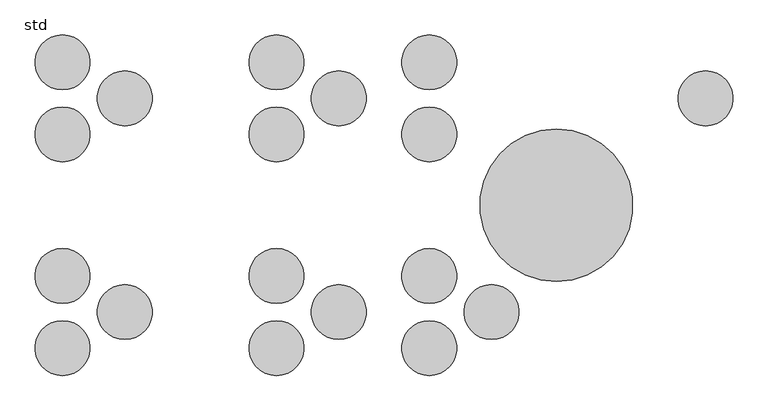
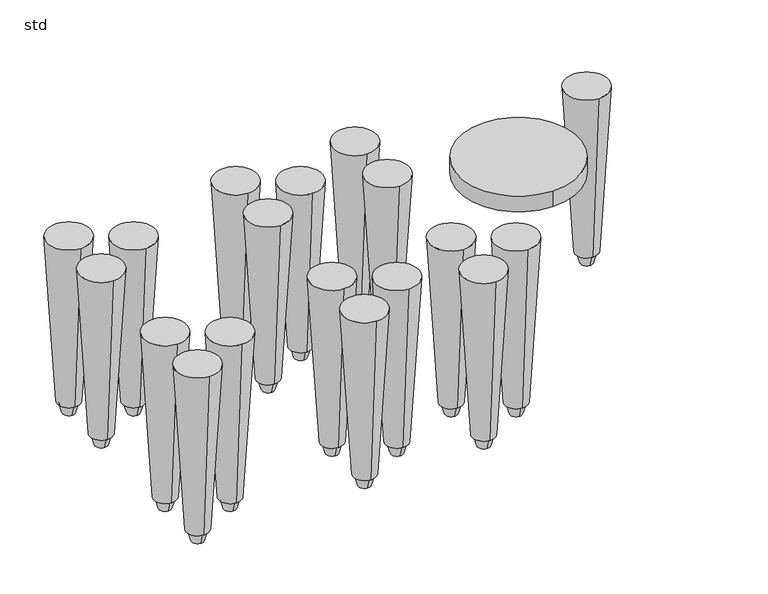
"""IFC4 building model written with IfcOpenShell, lengths in millimetres: unitary equipment geometry, Z_ME_UN_Aquacell_NG_Infiltration_Unit_Wavin_(nested) : std."""

from ifc_helpers import new_model, si_unit, point, frame, frame_2d, origin, place, context, project, spatial, polyline, circle_curve, trimmed, segment, composite_curve, outline, extrude, source, transform, mapped, element, save
from ifc_brep_helpers import plane_surface, revolved_surface, advanced_brep


def std_ece4d7e7(model_context):
    return source(origin(), model_context, "Body", "SolidModel", [
        extrude(outline(composite_curve([segment(trimmed(circle_curve(frame_2d((900.0, 300.0)), 125.0), [point((900.0, 425.0))], [point((900.0, 175.0))], False, "CARTESIAN"), True, "CONTINUOUS"), segment(trimmed(circle_curve(frame_2d((900.0, 300.0)), 125.0), [point((900.0, 175.0))], [point((900.0, 425.0))], False, "CARTESIAN"), True, "CONTINUOUS")], self_intersect=False)), frame((0.0, 0.0, 565.0), z_axis=(0.0, 0.0, 1.0), x_axis=(1.0, 0.0, 0.0)), (0.0, 0.0, 1.0), 35.0),
        advanced_brep(
        [(1144.0, 487.65, 175.0), (1144.0, 462.35, 175.0), (1144.0, 494.5, 200.0), (1144.0, 455.5, 200.0)],
        [
            (0, 1, circle_curve(frame((1144.0, 475.0, 175.0), z_axis=(0.0, 0.0, -1.0), x_axis=(0.0, 1.0, 0.0)), 12.65)),
            (1, 0, circle_curve(frame((1144.0, 475.0, 175.0), z_axis=(0.0, 0.0, -1.0), x_axis=(0.0, -1.0, 0.0)), 12.65)),
            (2, 3, circle_curve(frame((1144.0, 475.0, 200.0), z_axis=(0.0, 0.0, 1.0), x_axis=(0.0, -1.0, 0.0)), 19.5)),
            (3, 2, circle_curve(frame((1144.0, 475.0, 200.0), z_axis=(0.0, 0.0, 1.0), x_axis=(0.0, 1.0, 0.0)), 19.5)),
            (3, 1),
            (0, 2),
        ],
        [
            plane_surface(frame((1144.0, 475.0, 175.0), z_axis=(0.0, 0.0, -1.0), x_axis=(1.0, 0.0, 0.0))),
            plane_surface(frame((1144.0, 475.0, 200.0), z_axis=(0.0, 0.0, 1.0), x_axis=(1.0, 0.0, 0.0))),
            revolved_surface(polyline([(1144.0, 487.6499999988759, 175.0), (1144.0, 494.5, 200.0)]), (1144.0, 475.0, 128.8321168), (0.0, 0.0, 1.0)),
            revolved_surface(polyline([(1144.0, 462.3500000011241, 175.0), (1144.0, 455.5, 200.0)]), (1144.0, 475.0, 128.8321168), (0.0, 0.0, 1.0)),
        ],
        [
            (0, [[1, 2]]),
            (1, [[3, 4]]),
            (2, [[-4, 5, -1, 6]]),
            (3, [[-3, -6, -2, -5]]),
        ],
    ),
        advanced_brep(
        [(1144.0, 498.65, 200.0), (1144.0, 451.35, 200.0), (1144.0, 520.0, 565.0), (1144.0, 430.0, 565.0)],
        [
            (0, 1, circle_curve(frame((1144.0, 475.0, 200.0), z_axis=(0.0, 0.0, -1.0), x_axis=(0.0, 1.0, 0.0)), 23.65)),
            (1, 0, circle_curve(frame((1144.0, 475.0, 200.0), z_axis=(0.0, 0.0, -1.0), x_axis=(0.0, -1.0, 0.0)), 23.65)),
            (2, 3, circle_curve(frame((1144.0, 475.0, 565.0), z_axis=(0.0, 0.0, 1.0), x_axis=(0.0, -1.0, 0.0)), 45.0)),
            (3, 2, circle_curve(frame((1144.0, 475.0, 565.0), z_axis=(0.0, 0.0, 1.0), x_axis=(0.0, 1.0, 0.0)), 45.0)),
            (3, 1),
            (0, 2),
        ],
        [
            plane_surface(frame((1144.0, 475.0, 200.0), z_axis=(0.0, 0.0, -1.0), x_axis=(1.0, 0.0, 0.0))),
            plane_surface(frame((1144.0, 475.0, 565.0), z_axis=(0.0, 0.0, 1.0), x_axis=(1.0, 0.0, 0.0))),
            revolved_surface(polyline([(1144.0, 498.6500000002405, 199.99999999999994), (1144.0, 520.0, 565.0)]), (1144.0, 475.0, -204.3208431), (0.0, 0.0, 1.0)),
            revolved_surface(polyline([(1144.0, 451.3499999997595, 199.99999999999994), (1144.0, 430.0, 565.0)]), (1144.0, 475.0, -204.3208431), (0.0, 0.0, 1.0)),
        ],
        [
            (0, [[1, 2]]),
            (1, [[3, 4]]),
            (2, [[-4, 5, -1, 6]]),
            (3, [[-3, -6, -2, -5]]),
        ],
    ),
        advanced_brep(
        [(692.0, 78.65, 175.0), (692.0, 53.35, 175.0), (692.0, 85.5, 200.0), (692.0, 46.5, 200.0)],
        [
            (0, 1, circle_curve(frame((692.0, 66.0, 175.0), z_axis=(0.0, 0.0, -1.0), x_axis=(0.0, 1.0, 0.0)), 12.65)),
            (1, 0, circle_curve(frame((692.0, 66.0, 175.0), z_axis=(0.0, 0.0, -1.0), x_axis=(0.0, -1.0, 0.0)), 12.65)),
            (2, 3, circle_curve(frame((692.0, 66.0, 200.0), z_axis=(0.0, 0.0, 1.0), x_axis=(0.0, -1.0, 0.0)), 19.5)),
            (3, 2, circle_curve(frame((692.0, 66.0, 200.0), z_axis=(0.0, 0.0, 1.0), x_axis=(0.0, 1.0, 0.0)), 19.5)),
            (3, 1),
            (0, 2),
        ],
        [
            plane_surface(frame((692.0, 66.0, 175.0), z_axis=(0.0, 0.0, -1.0), x_axis=(1.0, 0.0, 0.0))),
            plane_surface(frame((692.0, 66.0, 200.0), z_axis=(0.0, 0.0, 1.0), x_axis=(1.0, 0.0, 0.0))),
            revolved_surface(polyline([(692.0, 78.6499999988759, 175.0), (692.0, 85.5, 200.0)]), (692.0, 66.0, 128.8321168), (0.0, 0.0, 1.0)),
            revolved_surface(polyline([(692.0, 53.3500000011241, 175.0), (692.0, 46.5, 200.0)]), (692.0, 66.0, 128.8321168), (0.0, 0.0, 1.0)),
        ],
        [
            (0, [[1, 2]]),
            (1, [[3, 4]]),
            (2, [[-4, 5, -1, 6]]),
            (3, [[-3, -6, -2, -5]]),
        ],
    ),
        advanced_brep(
        [(692.0, 196.65, 175.0), (692.0, 171.35, 175.0), (692.0, 203.5, 200.0), (692.0, 164.5, 200.0)],
        [
            (0, 1, circle_curve(frame((692.0, 184.0, 175.0), z_axis=(0.0, 0.0, -1.0), x_axis=(0.0, 1.0, 0.0)), 12.65)),
            (1, 0, circle_curve(frame((692.0, 184.0, 175.0), z_axis=(0.0, 0.0, -1.0), x_axis=(0.0, -1.0, 0.0)), 12.65)),
            (2, 3, circle_curve(frame((692.0, 184.0, 200.0), z_axis=(0.0, 0.0, 1.0), x_axis=(0.0, -1.0, 0.0)), 19.5)),
            (3, 2, circle_curve(frame((692.0, 184.0, 200.0), z_axis=(0.0, 0.0, 1.0), x_axis=(0.0, 1.0, 0.0)), 19.5)),
            (3, 1),
            (0, 2),
        ],
        [
            plane_surface(frame((692.0, 184.0, 175.0), z_axis=(0.0, 0.0, -1.0), x_axis=(1.0, 0.0, 0.0))),
            plane_surface(frame((692.0, 184.0, 200.0), z_axis=(0.0, 0.0, 1.0), x_axis=(1.0, 0.0, 0.0))),
            revolved_surface(polyline([(692.0, 196.6499999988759, 175.0), (692.0, 203.5, 200.0)]), (692.0, 184.0, 128.8321168), (0.0, 0.0, 1.0)),
            revolved_surface(polyline([(692.0, 171.3500000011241, 175.0), (692.0, 164.5, 200.0)]), (692.0, 184.0, 128.8321168), (0.0, 0.0, 1.0)),
        ],
        [
            (0, [[1, 2]]),
            (1, [[3, 4]]),
            (2, [[-4, 5, -1, 6]]),
            (3, [[-3, -6, -2, -5]]),
        ],
    ),
        advanced_brep(
        [(692.0, 89.65, 200.0), (692.0, 42.35, 200.0), (692.0, 111.0, 565.0), (692.0, 21.0, 565.0)],
        [
            (0, 1, circle_curve(frame((692.0, 66.0, 200.0), z_axis=(0.0, 0.0, -1.0), x_axis=(0.0, 1.0, 0.0)), 23.65)),
            (1, 0, circle_curve(frame((692.0, 66.0, 200.0), z_axis=(0.0, 0.0, -1.0), x_axis=(0.0, -1.0, 0.0)), 23.65)),
            (2, 3, circle_curve(frame((692.0, 66.0, 565.0), z_axis=(0.0, 0.0, 1.0), x_axis=(0.0, -1.0, 0.0)), 45.0)),
            (3, 2, circle_curve(frame((692.0, 66.0, 565.0), z_axis=(0.0, 0.0, 1.0), x_axis=(0.0, 1.0, 0.0)), 45.0)),
            (3, 1),
            (0, 2),
        ],
        [
            plane_surface(frame((692.0, 66.0, 200.0), z_axis=(0.0, 0.0, -1.0), x_axis=(1.0, 0.0, 0.0))),
            plane_surface(frame((692.0, 66.0, 565.0), z_axis=(0.0, 0.0, 1.0), x_axis=(1.0, 0.0, 0.0))),
            revolved_surface(polyline([(692.0, 89.65000000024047, 199.99999999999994), (692.0, 111.0, 565.0)]), (692.0, 66.0, -204.3208431), (0.0, 0.0, 1.0)),
            revolved_surface(polyline([(692.0, 42.34999999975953, 199.99999999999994), (692.0, 21.0, 565.0)]), (692.0, 66.0, -204.3208431), (0.0, 0.0, 1.0)),
        ],
        [
            (0, [[1, 2]]),
            (1, [[3, 4]]),
            (2, [[-4, 5, -1, 6]]),
            (3, [[-3, -6, -2, -5]]),
        ],
    ),
        advanced_brep(
        [(692.0, 207.65, 200.0), (692.0, 160.35, 200.0), (692.0, 229.0, 565.0), (692.0, 139.0, 565.0)],
        [
            (0, 1, circle_curve(frame((692.0, 184.0, 200.0), z_axis=(0.0, 0.0, -1.0), x_axis=(0.0, 1.0, 0.0)), 23.65)),
            (1, 0, circle_curve(frame((692.0, 184.0, 200.0), z_axis=(0.0, 0.0, -1.0), x_axis=(0.0, -1.0, 0.0)), 23.65)),
            (2, 3, circle_curve(frame((692.0, 184.0, 565.0), z_axis=(0.0, 0.0, 1.0), x_axis=(0.0, -1.0, 0.0)), 45.0)),
            (3, 2, circle_curve(frame((692.0, 184.0, 565.0), z_axis=(0.0, 0.0, 1.0), x_axis=(0.0, 1.0, 0.0)), 45.0)),
            (3, 1),
            (0, 2),
        ],
        [
            plane_surface(frame((692.0, 184.0, 200.0), z_axis=(0.0, 0.0, -1.0), x_axis=(1.0, 0.0, 0.0))),
            plane_surface(frame((692.0, 184.0, 565.0), z_axis=(0.0, 0.0, 1.0), x_axis=(1.0, 0.0, 0.0))),
            revolved_surface(polyline([(692.0, 207.65000000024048, 199.99999999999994), (692.0, 229.0, 565.0)]), (692.0, 184.0, -204.3208431), (0.0, 0.0, 1.0)),
            revolved_surface(polyline([(692.0, 160.34999999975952, 199.99999999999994), (692.0, 139.0, 565.0)]), (692.0, 184.0, -204.3208431), (0.0, 0.0, 1.0)),
        ],
        [
            (0, [[1, 2]]),
            (1, [[3, 4]]),
            (2, [[-4, 5, -1, 6]]),
            (3, [[-3, -6, -2, -5]]),
        ],
    ),
        advanced_brep(
        [(794.0, 137.65, 175.0), (794.0, 112.35, 175.0), (794.0, 144.5, 200.0), (794.0, 105.5, 200.0)],
        [
            (0, 1, circle_curve(frame((794.0, 125.0, 175.0), z_axis=(0.0, 0.0, -1.0), x_axis=(0.0, 1.0, 0.0)), 12.65)),
            (1, 0, circle_curve(frame((794.0, 125.0, 175.0), z_axis=(0.0, 0.0, -1.0), x_axis=(0.0, -1.0, 0.0)), 12.65)),
            (2, 3, circle_curve(frame((794.0, 125.0, 200.0), z_axis=(0.0, 0.0, 1.0), x_axis=(0.0, -1.0, 0.0)), 19.5)),
            (3, 2, circle_curve(frame((794.0, 125.0, 200.0), z_axis=(0.0, 0.0, 1.0), x_axis=(0.0, 1.0, 0.0)), 19.5)),
            (3, 1),
            (0, 2),
        ],
        [
            plane_surface(frame((794.0, 125.0, 175.0), z_axis=(0.0, 0.0, -1.0), x_axis=(1.0, 0.0, 0.0))),
            plane_surface(frame((794.0, 125.0, 200.0), z_axis=(0.0, 0.0, 1.0), x_axis=(1.0, 0.0, 0.0))),
            revolved_surface(polyline([(794.0, 137.6499999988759, 175.0), (794.0, 144.5, 200.0)]), (794.0, 125.0, 128.8321168), (0.0, 0.0, 1.0)),
            revolved_surface(polyline([(794.0, 112.3500000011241, 175.0), (794.0, 105.5, 200.0)]), (794.0, 125.0, 128.8321168), (0.0, 0.0, 1.0)),
        ],
        [
            (0, [[1, 2]]),
            (1, [[3, 4]]),
            (2, [[-4, 5, -1, 6]]),
            (3, [[-3, -6, -2, -5]]),
        ],
    ),
        advanced_brep(
        [(794.0, 148.65, 200.0), (794.0, 101.35, 200.0), (794.0, 170.0, 565.0), (794.0, 80.0, 565.0)],
        [
            (0, 1, circle_curve(frame((794.0, 125.0, 200.0), z_axis=(0.0, 0.0, -1.0), x_axis=(0.0, 1.0, 0.0)), 23.65)),
            (1, 0, circle_curve(frame((794.0, 125.0, 200.0), z_axis=(0.0, 0.0, -1.0), x_axis=(0.0, -1.0, 0.0)), 23.65)),
            (2, 3, circle_curve(frame((794.0, 125.0, 565.0), z_axis=(0.0, 0.0, 1.0), x_axis=(0.0, -1.0, 0.0)), 45.0)),
            (3, 2, circle_curve(frame((794.0, 125.0, 565.0), z_axis=(0.0, 0.0, 1.0), x_axis=(0.0, 1.0, 0.0)), 45.0)),
            (3, 1),
            (0, 2),
        ],
        [
            plane_surface(frame((794.0, 125.0, 200.0), z_axis=(0.0, 0.0, -1.0), x_axis=(1.0, 0.0, 0.0))),
            plane_surface(frame((794.0, 125.0, 565.0), z_axis=(0.0, 0.0, 1.0), x_axis=(1.0, 0.0, 0.0))),
            revolved_surface(polyline([(794.0, 148.65000000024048, 199.99999999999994), (794.0, 170.0, 565.0)]), (794.0, 125.0, -204.3208431), (0.0, 0.0, 1.0)),
            revolved_surface(polyline([(794.0, 101.34999999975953, 199.99999999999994), (794.0, 80.0, 565.0)]), (794.0, 125.0, -204.3208431), (0.0, 0.0, 1.0)),
        ],
        [
            (0, [[1, 2]]),
            (1, [[3, 4]]),
            (2, [[-4, 5, -1, 6]]),
            (3, [[-3, -6, -2, -5]]),
        ],
    ),
        advanced_brep(
        [(442.0, 78.65, 175.0), (442.0, 53.35, 175.0), (442.0, 85.5, 200.0), (442.0, 46.5, 200.0)],
        [
            (0, 1, circle_curve(frame((442.0, 66.0, 175.0), z_axis=(0.0, 0.0, -1.0), x_axis=(0.0, 1.0, 0.0)), 12.65)),
            (1, 0, circle_curve(frame((442.0, 66.0, 175.0), z_axis=(0.0, 0.0, -1.0), x_axis=(0.0, -1.0, 0.0)), 12.65)),
            (2, 3, circle_curve(frame((442.0, 66.0, 200.0), z_axis=(0.0, 0.0, 1.0), x_axis=(0.0, -1.0, 0.0)), 19.5)),
            (3, 2, circle_curve(frame((442.0, 66.0, 200.0), z_axis=(0.0, 0.0, 1.0), x_axis=(0.0, 1.0, 0.0)), 19.5)),
            (3, 1),
            (0, 2),
        ],
        [
            plane_surface(frame((442.0, 66.0, 175.0), z_axis=(0.0, 0.0, -1.0), x_axis=(1.0, 0.0, 0.0))),
            plane_surface(frame((442.0, 66.0, 200.0), z_axis=(0.0, 0.0, 1.0), x_axis=(1.0, 0.0, 0.0))),
            revolved_surface(polyline([(442.0, 78.6499999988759, 175.0), (442.0, 85.5, 200.0)]), (442.0, 66.0, 128.8321168), (0.0, 0.0, 1.0)),
            revolved_surface(polyline([(442.0, 53.3500000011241, 175.0), (442.0, 46.5, 200.0)]), (442.0, 66.0, 128.8321168), (0.0, 0.0, 1.0)),
        ],
        [
            (0, [[1, 2]]),
            (1, [[3, 4]]),
            (2, [[-4, 5, -1, 6]]),
            (3, [[-3, -6, -2, -5]]),
        ],
    ),
        advanced_brep(
        [(442.0, 196.65, 175.0), (442.0, 171.35, 175.0), (442.0, 203.5, 200.0), (442.0, 164.5, 200.0)],
        [
            (0, 1, circle_curve(frame((442.0, 184.0, 175.0), z_axis=(0.0, 0.0, -1.0), x_axis=(0.0, 1.0, 0.0)), 12.65)),
            (1, 0, circle_curve(frame((442.0, 184.0, 175.0), z_axis=(0.0, 0.0, -1.0), x_axis=(0.0, -1.0, 0.0)), 12.65)),
            (2, 3, circle_curve(frame((442.0, 184.0, 200.0), z_axis=(0.0, 0.0, 1.0), x_axis=(0.0, -1.0, 0.0)), 19.5)),
            (3, 2, circle_curve(frame((442.0, 184.0, 200.0), z_axis=(0.0, 0.0, 1.0), x_axis=(0.0, 1.0, 0.0)), 19.5)),
            (3, 1),
            (0, 2),
        ],
        [
            plane_surface(frame((442.0, 184.0, 175.0), z_axis=(0.0, 0.0, -1.0), x_axis=(1.0, 0.0, 0.0))),
            plane_surface(frame((442.0, 184.0, 200.0), z_axis=(0.0, 0.0, 1.0), x_axis=(1.0, 0.0, 0.0))),
            revolved_surface(polyline([(442.0, 196.6499999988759, 175.0), (442.0, 203.5, 200.0)]), (442.0, 184.0, 128.8321168), (0.0, 0.0, 1.0)),
            revolved_surface(polyline([(442.0, 171.3500000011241, 175.0), (442.0, 164.5, 200.0)]), (442.0, 184.0, 128.8321168), (0.0, 0.0, 1.0)),
        ],
        [
            (0, [[1, 2]]),
            (1, [[3, 4]]),
            (2, [[-4, 5, -1, 6]]),
            (3, [[-3, -6, -2, -5]]),
        ],
    ),
        advanced_brep(
        [(442.0, 89.65, 200.0), (442.0, 42.35, 200.0), (442.0, 111.0, 565.0), (442.0, 21.0, 565.0)],
        [
            (0, 1, circle_curve(frame((442.0, 66.0, 200.0), z_axis=(0.0, 0.0, -1.0), x_axis=(0.0, 1.0, 0.0)), 23.65)),
            (1, 0, circle_curve(frame((442.0, 66.0, 200.0), z_axis=(0.0, 0.0, -1.0), x_axis=(0.0, -1.0, 0.0)), 23.65)),
            (2, 3, circle_curve(frame((442.0, 66.0, 565.0), z_axis=(0.0, 0.0, 1.0), x_axis=(0.0, -1.0, 0.0)), 45.0)),
            (3, 2, circle_curve(frame((442.0, 66.0, 565.0), z_axis=(0.0, 0.0, 1.0), x_axis=(0.0, 1.0, 0.0)), 45.0)),
            (3, 1),
            (0, 2),
        ],
        [
            plane_surface(frame((442.0, 66.0, 200.0), z_axis=(0.0, 0.0, -1.0), x_axis=(1.0, 0.0, 0.0))),
            plane_surface(frame((442.0, 66.0, 565.0), z_axis=(0.0, 0.0, 1.0), x_axis=(1.0, 0.0, 0.0))),
            revolved_surface(polyline([(442.0, 89.65000000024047, 199.99999999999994), (442.0, 111.0, 565.0)]), (442.0, 66.0, -204.3208431), (0.0, 0.0, 1.0)),
            revolved_surface(polyline([(442.0, 42.34999999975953, 199.99999999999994), (442.0, 21.0, 565.0)]), (442.0, 66.0, -204.3208431), (0.0, 0.0, 1.0)),
        ],
        [
            (0, [[1, 2]]),
            (1, [[3, 4]]),
            (2, [[-4, 5, -1, 6]]),
            (3, [[-3, -6, -2, -5]]),
        ],
    ),
        advanced_brep(
        [(442.0, 207.65, 200.0), (442.0, 160.35, 200.0), (442.0, 229.0, 565.0), (442.0, 139.0, 565.0)],
        [
            (0, 1, circle_curve(frame((442.0, 184.0, 200.0), z_axis=(0.0, 0.0, -1.0), x_axis=(0.0, 1.0, 0.0)), 23.65)),
            (1, 0, circle_curve(frame((442.0, 184.0, 200.0), z_axis=(0.0, 0.0, -1.0), x_axis=(0.0, -1.0, 0.0)), 23.65)),
            (2, 3, circle_curve(frame((442.0, 184.0, 565.0), z_axis=(0.0, 0.0, 1.0), x_axis=(0.0, -1.0, 0.0)), 45.0)),
            (3, 2, circle_curve(frame((442.0, 184.0, 565.0), z_axis=(0.0, 0.0, 1.0), x_axis=(0.0, 1.0, 0.0)), 45.0)),
            (3, 1),
            (0, 2),
        ],
        [
            plane_surface(frame((442.0, 184.0, 200.0), z_axis=(0.0, 0.0, -1.0), x_axis=(1.0, 0.0, 0.0))),
            plane_surface(frame((442.0, 184.0, 565.0), z_axis=(0.0, 0.0, 1.0), x_axis=(1.0, 0.0, 0.0))),
            revolved_surface(polyline([(442.0, 207.65000000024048, 199.99999999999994), (442.0, 229.0, 565.0)]), (442.0, 184.0, -204.3208431), (0.0, 0.0, 1.0)),
            revolved_surface(polyline([(442.0, 160.34999999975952, 199.99999999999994), (442.0, 139.0, 565.0)]), (442.0, 184.0, -204.3208431), (0.0, 0.0, 1.0)),
        ],
        [
            (0, [[1, 2]]),
            (1, [[3, 4]]),
            (2, [[-4, 5, -1, 6]]),
            (3, [[-3, -6, -2, -5]]),
        ],
    ),
        advanced_brep(
        [(544.0, 137.65, 175.0), (544.0, 112.35, 175.0), (544.0, 144.5, 200.0), (544.0, 105.5, 200.0)],
        [
            (0, 1, circle_curve(frame((544.0, 125.0, 175.0), z_axis=(0.0, 0.0, -1.0), x_axis=(0.0, 1.0, 0.0)), 12.65)),
            (1, 0, circle_curve(frame((544.0, 125.0, 175.0), z_axis=(0.0, 0.0, -1.0), x_axis=(0.0, -1.0, 0.0)), 12.65)),
            (2, 3, circle_curve(frame((544.0, 125.0, 200.0), z_axis=(0.0, 0.0, 1.0), x_axis=(0.0, -1.0, 0.0)), 19.5)),
            (3, 2, circle_curve(frame((544.0, 125.0, 200.0), z_axis=(0.0, 0.0, 1.0), x_axis=(0.0, 1.0, 0.0)), 19.5)),
            (3, 1),
            (0, 2),
        ],
        [
            plane_surface(frame((544.0, 125.0, 175.0), z_axis=(0.0, 0.0, -1.0), x_axis=(1.0, 0.0, 0.0))),
            plane_surface(frame((544.0, 125.0, 200.0), z_axis=(0.0, 0.0, 1.0), x_axis=(1.0, 0.0, 0.0))),
            revolved_surface(polyline([(544.0, 137.6499999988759, 175.0), (544.0, 144.5, 200.0)]), (544.0, 125.0, 128.8321168), (0.0, 0.0, 1.0)),
            revolved_surface(polyline([(544.0, 112.3500000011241, 175.0), (544.0, 105.5, 200.0)]), (544.0, 125.0, 128.8321168), (0.0, 0.0, 1.0)),
        ],
        [
            (0, [[1, 2]]),
            (1, [[3, 4]]),
            (2, [[-4, 5, -1, 6]]),
            (3, [[-3, -6, -2, -5]]),
        ],
    ),
        advanced_brep(
        [(544.0, 148.65, 200.0), (544.0, 101.35, 200.0), (544.0, 170.0, 565.0), (544.0, 80.0, 565.0)],
        [
            (0, 1, circle_curve(frame((544.0, 125.0, 200.0), z_axis=(0.0, 0.0, -1.0), x_axis=(0.0, 1.0, 0.0)), 23.65)),
            (1, 0, circle_curve(frame((544.0, 125.0, 200.0), z_axis=(0.0, 0.0, -1.0), x_axis=(0.0, -1.0, 0.0)), 23.65)),
            (2, 3, circle_curve(frame((544.0, 125.0, 565.0), z_axis=(0.0, 0.0, 1.0), x_axis=(0.0, -1.0, 0.0)), 45.0)),
            (3, 2, circle_curve(frame((544.0, 125.0, 565.0), z_axis=(0.0, 0.0, 1.0), x_axis=(0.0, 1.0, 0.0)), 45.0)),
            (3, 1),
            (0, 2),
        ],
        [
            plane_surface(frame((544.0, 125.0, 200.0), z_axis=(0.0, 0.0, -1.0), x_axis=(1.0, 0.0, 0.0))),
            plane_surface(frame((544.0, 125.0, 565.0), z_axis=(0.0, 0.0, 1.0), x_axis=(1.0, 0.0, 0.0))),
            revolved_surface(polyline([(544.0, 148.65000000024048, 199.99999999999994), (544.0, 170.0, 565.0)]), (544.0, 125.0, -204.3208431), (0.0, 0.0, 1.0)),
            revolved_surface(polyline([(544.0, 101.34999999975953, 199.99999999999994), (544.0, 80.0, 565.0)]), (544.0, 125.0, -204.3208431), (0.0, 0.0, 1.0)),
        ],
        [
            (0, [[1, 2]]),
            (1, [[3, 4]]),
            (2, [[-4, 5, -1, 6]]),
            (3, [[-3, -6, -2, -5]]),
        ],
    ),
        advanced_brep(
        [(92.0, 78.65, 175.0), (92.0, 53.35, 175.0), (92.0, 85.5, 200.0), (92.0, 46.5, 200.0)],
        [
            (0, 1, circle_curve(frame((92.0, 66.0, 175.0), z_axis=(0.0, 0.0, -1.0), x_axis=(0.0, 1.0, 0.0)), 12.65)),
            (1, 0, circle_curve(frame((92.0, 66.0, 175.0), z_axis=(0.0, 0.0, -1.0), x_axis=(0.0, -1.0, 0.0)), 12.65)),
            (2, 3, circle_curve(frame((92.0, 66.0, 200.0), z_axis=(0.0, 0.0, 1.0), x_axis=(0.0, -1.0, 0.0)), 19.5)),
            (3, 2, circle_curve(frame((92.0, 66.0, 200.0), z_axis=(0.0, 0.0, 1.0), x_axis=(0.0, 1.0, 0.0)), 19.5)),
            (3, 1),
            (0, 2),
        ],
        [
            plane_surface(frame((92.0, 66.0, 175.0), z_axis=(0.0, 0.0, -1.0), x_axis=(1.0, 0.0, 0.0))),
            plane_surface(frame((92.0, 66.0, 200.0), z_axis=(0.0, 0.0, 1.0), x_axis=(1.0, 0.0, 0.0))),
            revolved_surface(polyline([(92.0, 78.6499999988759, 175.0), (92.0, 85.5, 200.0)]), (92.0, 66.0, 128.8321168), (0.0, 0.0, 1.0)),
            revolved_surface(polyline([(92.0, 53.3500000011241, 175.0), (92.0, 46.5, 200.0)]), (92.0, 66.0, 128.8321168), (0.0, 0.0, 1.0)),
        ],
        [
            (0, [[1, 2]]),
            (1, [[3, 4]]),
            (2, [[-4, 5, -1, 6]]),
            (3, [[-3, -6, -2, -5]]),
        ],
    ),
        advanced_brep(
        [(92.0, 196.65, 175.0), (92.0, 171.35, 175.0), (92.0, 203.5, 200.0), (92.0, 164.5, 200.0)],
        [
            (0, 1, circle_curve(frame((92.0, 184.0, 175.0), z_axis=(0.0, 0.0, -1.0), x_axis=(0.0, 1.0, 0.0)), 12.65)),
            (1, 0, circle_curve(frame((92.0, 184.0, 175.0), z_axis=(0.0, 0.0, -1.0), x_axis=(0.0, -1.0, 0.0)), 12.65)),
            (2, 3, circle_curve(frame((92.0, 184.0, 200.0), z_axis=(0.0, 0.0, 1.0), x_axis=(0.0, -1.0, 0.0)), 19.5)),
            (3, 2, circle_curve(frame((92.0, 184.0, 200.0), z_axis=(0.0, 0.0, 1.0), x_axis=(0.0, 1.0, 0.0)), 19.5)),
            (3, 1),
            (0, 2),
        ],
        [
            plane_surface(frame((92.0, 184.0, 175.0), z_axis=(0.0, 0.0, -1.0), x_axis=(1.0, 0.0, 0.0))),
            plane_surface(frame((92.0, 184.0, 200.0), z_axis=(0.0, 0.0, 1.0), x_axis=(1.0, 0.0, 0.0))),
            revolved_surface(polyline([(92.0, 196.6499999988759, 175.0), (92.0, 203.5, 200.0)]), (92.0, 184.0, 128.8321168), (0.0, 0.0, 1.0)),
            revolved_surface(polyline([(92.0, 171.3500000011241, 175.0), (92.0, 164.5, 200.0)]), (92.0, 184.0, 128.8321168), (0.0, 0.0, 1.0)),
        ],
        [
            (0, [[1, 2]]),
            (1, [[3, 4]]),
            (2, [[-4, 5, -1, 6]]),
            (3, [[-3, -6, -2, -5]]),
        ],
    ),
        advanced_brep(
        [(92.0, 89.65, 200.0), (92.0, 42.35, 200.0), (92.0, 111.0, 565.0), (92.0, 21.0, 565.0)],
        [
            (0, 1, circle_curve(frame((92.0, 66.0, 200.0), z_axis=(0.0, 0.0, -1.0), x_axis=(0.0, 1.0, 0.0)), 23.65)),
            (1, 0, circle_curve(frame((92.0, 66.0, 200.0), z_axis=(0.0, 0.0, -1.0), x_axis=(0.0, -1.0, 0.0)), 23.65)),
            (2, 3, circle_curve(frame((92.0, 66.0, 565.0), z_axis=(0.0, 0.0, 1.0), x_axis=(0.0, -1.0, 0.0)), 45.0)),
            (3, 2, circle_curve(frame((92.0, 66.0, 565.0), z_axis=(0.0, 0.0, 1.0), x_axis=(0.0, 1.0, 0.0)), 45.0)),
            (3, 1),
            (0, 2),
        ],
        [
            plane_surface(frame((92.0, 66.0, 200.0), z_axis=(0.0, 0.0, -1.0), x_axis=(1.0, 0.0, 0.0))),
            plane_surface(frame((92.0, 66.0, 565.0), z_axis=(0.0, 0.0, 1.0), x_axis=(1.0, 0.0, 0.0))),
            revolved_surface(polyline([(92.0, 89.65000000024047, 199.99999999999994), (92.0, 111.0, 565.0)]), (92.0, 66.0, -204.3208431), (0.0, 0.0, 1.0)),
            revolved_surface(polyline([(92.0, 42.34999999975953, 199.99999999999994), (92.0, 21.0, 565.0)]), (92.0, 66.0, -204.3208431), (0.0, 0.0, 1.0)),
        ],
        [
            (0, [[1, 2]]),
            (1, [[3, 4]]),
            (2, [[-4, 5, -1, 6]]),
            (3, [[-3, -6, -2, -5]]),
        ],
    ),
        advanced_brep(
        [(92.0, 207.65, 200.0), (92.0, 160.35, 200.0), (92.0, 229.0, 565.0), (92.0, 139.0, 565.0)],
        [
            (0, 1, circle_curve(frame((92.0, 184.0, 200.0), z_axis=(0.0, 0.0, -1.0), x_axis=(0.0, 1.0, 0.0)), 23.65)),
            (1, 0, circle_curve(frame((92.0, 184.0, 200.0), z_axis=(0.0, 0.0, -1.0), x_axis=(0.0, -1.0, 0.0)), 23.65)),
            (2, 3, circle_curve(frame((92.0, 184.0, 565.0), z_axis=(0.0, 0.0, 1.0), x_axis=(0.0, -1.0, 0.0)), 45.0)),
            (3, 2, circle_curve(frame((92.0, 184.0, 565.0), z_axis=(0.0, 0.0, 1.0), x_axis=(0.0, 1.0, 0.0)), 45.0)),
            (3, 1),
            (0, 2),
        ],
        [
            plane_surface(frame((92.0, 184.0, 200.0), z_axis=(0.0, 0.0, -1.0), x_axis=(1.0, 0.0, 0.0))),
            plane_surface(frame((92.0, 184.0, 565.0), z_axis=(0.0, 0.0, 1.0), x_axis=(1.0, 0.0, 0.0))),
            revolved_surface(polyline([(92.0, 207.65000000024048, 199.99999999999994), (92.0, 229.0, 565.0)]), (92.0, 184.0, -204.3208431), (0.0, 0.0, 1.0)),
            revolved_surface(polyline([(92.0, 160.34999999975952, 199.99999999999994), (92.0, 139.0, 565.0)]), (92.0, 184.0, -204.3208431), (0.0, 0.0, 1.0)),
        ],
        [
            (0, [[1, 2]]),
            (1, [[3, 4]]),
            (2, [[-4, 5, -1, 6]]),
            (3, [[-3, -6, -2, -5]]),
        ],
    ),
        advanced_brep(
        [(194.0, 137.65, 175.0), (194.0, 112.35, 175.0), (194.0, 144.5, 200.0), (194.0, 105.5, 200.0)],
        [
            (0, 1, circle_curve(frame((194.0, 125.0, 175.0), z_axis=(0.0, 0.0, -1.0), x_axis=(0.0, 1.0, 0.0)), 12.65)),
            (1, 0, circle_curve(frame((194.0, 125.0, 175.0), z_axis=(0.0, 0.0, -1.0), x_axis=(0.0, -1.0, 0.0)), 12.65)),
            (2, 3, circle_curve(frame((194.0, 125.0, 200.0), z_axis=(0.0, 0.0, 1.0), x_axis=(0.0, -1.0, 0.0)), 19.5)),
            (3, 2, circle_curve(frame((194.0, 125.0, 200.0), z_axis=(0.0, 0.0, 1.0), x_axis=(0.0, 1.0, 0.0)), 19.5)),
            (3, 1),
            (0, 2),
        ],
        [
            plane_surface(frame((194.0, 125.0, 175.0), z_axis=(0.0, 0.0, -1.0), x_axis=(1.0, 0.0, 0.0))),
            plane_surface(frame((194.0, 125.0, 200.0), z_axis=(0.0, 0.0, 1.0), x_axis=(1.0, 0.0, 0.0))),
            revolved_surface(polyline([(194.0, 137.6499999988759, 175.0), (194.0, 144.5, 200.0)]), (194.0, 125.0, 128.8321168), (0.0, 0.0, 1.0)),
            revolved_surface(polyline([(194.0, 112.3500000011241, 175.0), (194.0, 105.5, 200.0)]), (194.0, 125.0, 128.8321168), (0.0, 0.0, 1.0)),
        ],
        [
            (0, [[1, 2]]),
            (1, [[3, 4]]),
            (2, [[-4, 5, -1, 6]]),
            (3, [[-3, -6, -2, -5]]),
        ],
    ),
        advanced_brep(
        [(194.0, 148.65, 200.0), (194.0, 101.35, 200.0), (194.0, 170.0, 565.0), (194.0, 80.0, 565.0)],
        [
            (0, 1, circle_curve(frame((194.0, 125.0, 200.0), z_axis=(0.0, 0.0, -1.0), x_axis=(0.0, 1.0, 0.0)), 23.65)),
            (1, 0, circle_curve(frame((194.0, 125.0, 200.0), z_axis=(0.0, 0.0, -1.0), x_axis=(0.0, -1.0, 0.0)), 23.65)),
            (2, 3, circle_curve(frame((194.0, 125.0, 565.0), z_axis=(0.0, 0.0, 1.0), x_axis=(0.0, -1.0, 0.0)), 45.0)),
            (3, 2, circle_curve(frame((194.0, 125.0, 565.0), z_axis=(0.0, 0.0, 1.0), x_axis=(0.0, 1.0, 0.0)), 45.0)),
            (3, 1),
            (0, 2),
        ],
        [
            plane_surface(frame((194.0, 125.0, 200.0), z_axis=(0.0, 0.0, -1.0), x_axis=(1.0, 0.0, 0.0))),
            plane_surface(frame((194.0, 125.0, 565.0), z_axis=(0.0, 0.0, 1.0), x_axis=(1.0, 0.0, 0.0))),
            revolved_surface(polyline([(194.0, 148.65000000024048, 199.99999999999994), (194.0, 170.0, 565.0)]), (194.0, 125.0, -204.3208431), (0.0, 0.0, 1.0)),
            revolved_surface(polyline([(194.0, 101.34999999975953, 199.99999999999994), (194.0, 80.0, 565.0)]), (194.0, 125.0, -204.3208431), (0.0, 0.0, 1.0)),
        ],
        [
            (0, [[1, 2]]),
            (1, [[3, 4]]),
            (2, [[-4, 5, -1, 6]]),
            (3, [[-3, -6, -2, -5]]),
        ],
    ),
        advanced_brep(
        [(92.0, 428.65, 175.0), (92.0, 403.35, 175.0), (92.0, 435.5, 200.0), (92.0, 396.5, 200.0)],
        [
            (0, 1, circle_curve(frame((92.0, 416.0, 175.0), z_axis=(0.0, 0.0, -1.0), x_axis=(0.0, 1.0, 0.0)), 12.65)),
            (1, 0, circle_curve(frame((92.0, 416.0, 175.0), z_axis=(0.0, 0.0, -1.0), x_axis=(0.0, -1.0, 0.0)), 12.65)),
            (2, 3, circle_curve(frame((92.0, 416.0, 200.0), z_axis=(0.0, 0.0, 1.0), x_axis=(0.0, -1.0, 0.0)), 19.5)),
            (3, 2, circle_curve(frame((92.0, 416.0, 200.0), z_axis=(0.0, 0.0, 1.0), x_axis=(0.0, 1.0, 0.0)), 19.5)),
            (3, 1),
            (0, 2),
        ],
        [
            plane_surface(frame((92.0, 416.0, 175.0), z_axis=(0.0, 0.0, -1.0), x_axis=(1.0, 0.0, 0.0))),
            plane_surface(frame((92.0, 416.0, 200.0), z_axis=(0.0, 0.0, 1.0), x_axis=(1.0, 0.0, 0.0))),
            revolved_surface(polyline([(92.0, 428.6499999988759, 175.0), (92.0, 435.5, 200.0)]), (92.0, 416.0, 128.8321168), (0.0, 0.0, 1.0)),
            revolved_surface(polyline([(92.0, 403.3500000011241, 175.0), (92.0, 396.5, 200.0)]), (92.0, 416.0, 128.8321168), (0.0, 0.0, 1.0)),
        ],
        [
            (0, [[1, 2]]),
            (1, [[3, 4]]),
            (2, [[-4, 5, -1, 6]]),
            (3, [[-3, -6, -2, -5]]),
        ],
    ),
        advanced_brep(
        [(92.0, 546.65, 175.0), (92.0, 521.35, 175.0), (92.0, 553.5, 200.0), (92.0, 514.5, 200.0)],
        [
            (0, 1, circle_curve(frame((92.0, 534.0, 175.0), z_axis=(0.0, 0.0, -1.0), x_axis=(0.0, 1.0, 0.0)), 12.65)),
            (1, 0, circle_curve(frame((92.0, 534.0, 175.0), z_axis=(0.0, 0.0, -1.0), x_axis=(0.0, -1.0, 0.0)), 12.65)),
            (2, 3, circle_curve(frame((92.0, 534.0, 200.0), z_axis=(0.0, 0.0, 1.0), x_axis=(0.0, -1.0, 0.0)), 19.5)),
            (3, 2, circle_curve(frame((92.0, 534.0, 200.0), z_axis=(0.0, 0.0, 1.0), x_axis=(0.0, 1.0, 0.0)), 19.5)),
            (3, 1),
            (0, 2),
        ],
        [
            plane_surface(frame((92.0, 534.0, 175.0), z_axis=(0.0, 0.0, -1.0), x_axis=(1.0, 0.0, 0.0))),
            plane_surface(frame((92.0, 534.0, 200.0), z_axis=(0.0, 0.0, 1.0), x_axis=(1.0, 0.0, 0.0))),
            revolved_surface(polyline([(92.0, 546.6499999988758, 175.0), (92.0, 553.5, 200.0)]), (92.0, 534.0, 128.8321168), (0.0, 0.0, 1.0)),
            revolved_surface(polyline([(92.0, 521.3500000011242, 175.0), (92.0, 514.5, 200.0)]), (92.0, 534.0, 128.8321168), (0.0, 0.0, 1.0)),
        ],
        [
            (0, [[1, 2]]),
            (1, [[3, 4]]),
            (2, [[-4, 5, -1, 6]]),
            (3, [[-3, -6, -2, -5]]),
        ],
    ),
        advanced_brep(
        [(92.0, 439.65, 200.0), (92.0, 392.35, 200.0), (92.0, 461.0, 565.0), (92.0, 371.0, 565.0)],
        [
            (0, 1, circle_curve(frame((92.0, 416.0, 200.0), z_axis=(0.0, 0.0, -1.0), x_axis=(0.0, 1.0, 0.0)), 23.65)),
            (1, 0, circle_curve(frame((92.0, 416.0, 200.0), z_axis=(0.0, 0.0, -1.0), x_axis=(0.0, -1.0, 0.0)), 23.65)),
            (2, 3, circle_curve(frame((92.0, 416.0, 565.0), z_axis=(0.0, 0.0, 1.0), x_axis=(0.0, -1.0, 0.0)), 45.0)),
            (3, 2, circle_curve(frame((92.0, 416.0, 565.0), z_axis=(0.0, 0.0, 1.0), x_axis=(0.0, 1.0, 0.0)), 45.0)),
            (3, 1),
            (0, 2),
        ],
        [
            plane_surface(frame((92.0, 416.0, 200.0), z_axis=(0.0, 0.0, -1.0), x_axis=(1.0, 0.0, 0.0))),
            plane_surface(frame((92.0, 416.0, 565.0), z_axis=(0.0, 0.0, 1.0), x_axis=(1.0, 0.0, 0.0))),
            revolved_surface(polyline([(92.0, 439.6500000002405, 199.99999999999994), (92.0, 461.0, 565.0)]), (92.0, 416.0, -204.3208431), (0.0, 0.0, 1.0)),
            revolved_surface(polyline([(92.0, 392.3499999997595, 199.99999999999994), (92.0, 371.0, 565.0)]), (92.0, 416.0, -204.3208431), (0.0, 0.0, 1.0)),
        ],
        [
            (0, [[1, 2]]),
            (1, [[3, 4]]),
            (2, [[-4, 5, -1, 6]]),
            (3, [[-3, -6, -2, -5]]),
        ],
    ),
        advanced_brep(
        [(92.0, 557.65, 200.0), (92.0, 510.35, 200.0), (92.0, 579.0, 565.0), (92.0, 489.0, 565.0)],
        [
            (0, 1, circle_curve(frame((92.0, 534.0, 200.0), z_axis=(0.0, 0.0, -1.0), x_axis=(0.0, 1.0, 0.0)), 23.65)),
            (1, 0, circle_curve(frame((92.0, 534.0, 200.0), z_axis=(0.0, 0.0, -1.0), x_axis=(0.0, -1.0, 0.0)), 23.65)),
            (2, 3, circle_curve(frame((92.0, 534.0, 565.0), z_axis=(0.0, 0.0, 1.0), x_axis=(0.0, -1.0, 0.0)), 45.0)),
            (3, 2, circle_curve(frame((92.0, 534.0, 565.0), z_axis=(0.0, 0.0, 1.0), x_axis=(0.0, 1.0, 0.0)), 45.0)),
            (3, 1),
            (0, 2),
        ],
        [
            plane_surface(frame((92.0, 534.0, 200.0), z_axis=(0.0, 0.0, -1.0), x_axis=(1.0, 0.0, 0.0))),
            plane_surface(frame((92.0, 534.0, 565.0), z_axis=(0.0, 0.0, 1.0), x_axis=(1.0, 0.0, 0.0))),
            revolved_surface(polyline([(92.0, 557.6500000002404, 199.99999999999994), (92.0, 579.0, 565.0)]), (92.0, 534.0, -204.3208431), (0.0, 0.0, 1.0)),
            revolved_surface(polyline([(92.0, 510.3499999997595, 199.99999999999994), (92.0, 489.0, 565.0)]), (92.0, 534.0, -204.3208431), (0.0, 0.0, 1.0)),
        ],
        [
            (0, [[1, 2]]),
            (1, [[3, 4]]),
            (2, [[-4, 5, -1, 6]]),
            (3, [[-3, -6, -2, -5]]),
        ],
    ),
        advanced_brep(
        [(194.0, 487.65, 175.0), (194.0, 462.35, 175.0), (194.0, 494.5, 200.0), (194.0, 455.5, 200.0)],
        [
            (0, 1, circle_curve(frame((194.0, 475.0, 175.0), z_axis=(0.0, 0.0, -1.0), x_axis=(0.0, 1.0, 0.0)), 12.65)),
            (1, 0, circle_curve(frame((194.0, 475.0, 175.0), z_axis=(0.0, 0.0, -1.0), x_axis=(0.0, -1.0, 0.0)), 12.65)),
            (2, 3, circle_curve(frame((194.0, 475.0, 200.0), z_axis=(0.0, 0.0, 1.0), x_axis=(0.0, -1.0, 0.0)), 19.5)),
            (3, 2, circle_curve(frame((194.0, 475.0, 200.0), z_axis=(0.0, 0.0, 1.0), x_axis=(0.0, 1.0, 0.0)), 19.5)),
            (3, 1),
            (0, 2),
        ],
        [
            plane_surface(frame((194.0, 475.0, 175.0), z_axis=(0.0, 0.0, -1.0), x_axis=(1.0, 0.0, 0.0))),
            plane_surface(frame((194.0, 475.0, 200.0), z_axis=(0.0, 0.0, 1.0), x_axis=(1.0, 0.0, 0.0))),
            revolved_surface(polyline([(194.0, 487.6499999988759, 175.0), (194.0, 494.5, 200.0)]), (194.0, 475.0, 128.8321168), (0.0, 0.0, 1.0)),
            revolved_surface(polyline([(194.0, 462.3500000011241, 175.0), (194.0, 455.5, 200.0)]), (194.0, 475.0, 128.8321168), (0.0, 0.0, 1.0)),
        ],
        [
            (0, [[1, 2]]),
            (1, [[3, 4]]),
            (2, [[-4, 5, -1, 6]]),
            (3, [[-3, -6, -2, -5]]),
        ],
    ),
        advanced_brep(
        [(194.0, 498.65, 200.0), (194.0, 451.35, 200.0), (194.0, 520.0, 565.0), (194.0, 430.0, 565.0)],
        [
            (0, 1, circle_curve(frame((194.0, 475.0, 200.0), z_axis=(0.0, 0.0, -1.0), x_axis=(0.0, 1.0, 0.0)), 23.65)),
            (1, 0, circle_curve(frame((194.0, 475.0, 200.0), z_axis=(0.0, 0.0, -1.0), x_axis=(0.0, -1.0, 0.0)), 23.65)),
            (2, 3, circle_curve(frame((194.0, 475.0, 565.0), z_axis=(0.0, 0.0, 1.0), x_axis=(0.0, -1.0, 0.0)), 45.0)),
            (3, 2, circle_curve(frame((194.0, 475.0, 565.0), z_axis=(0.0, 0.0, 1.0), x_axis=(0.0, 1.0, 0.0)), 45.0)),
            (3, 1),
            (0, 2),
        ],
        [
            plane_surface(frame((194.0, 475.0, 200.0), z_axis=(0.0, 0.0, -1.0), x_axis=(1.0, 0.0, 0.0))),
            plane_surface(frame((194.0, 475.0, 565.0), z_axis=(0.0, 0.0, 1.0), x_axis=(1.0, 0.0, 0.0))),
            revolved_surface(polyline([(194.0, 498.6500000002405, 199.99999999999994), (194.0, 520.0, 565.0)]), (194.0, 475.0, -204.3208431), (0.0, 0.0, 1.0)),
            revolved_surface(polyline([(194.0, 451.3499999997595, 199.99999999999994), (194.0, 430.0, 565.0)]), (194.0, 475.0, -204.3208431), (0.0, 0.0, 1.0)),
        ],
        [
            (0, [[1, 2]]),
            (1, [[3, 4]]),
            (2, [[-4, 5, -1, 6]]),
            (3, [[-3, -6, -2, -5]]),
        ],
    ),
        advanced_brep(
        [(442.0, 428.65, 175.0), (442.0, 403.35, 175.0), (442.0, 435.5, 200.0), (442.0, 396.5, 200.0)],
        [
            (0, 1, circle_curve(frame((442.0, 416.0, 175.0), z_axis=(0.0, 0.0, -1.0), x_axis=(0.0, 1.0, 0.0)), 12.65)),
            (1, 0, circle_curve(frame((442.0, 416.0, 175.0), z_axis=(0.0, 0.0, -1.0), x_axis=(0.0, -1.0, 0.0)), 12.65)),
            (2, 3, circle_curve(frame((442.0, 416.0, 200.0), z_axis=(0.0, 0.0, 1.0), x_axis=(0.0, -1.0, 0.0)), 19.5)),
            (3, 2, circle_curve(frame((442.0, 416.0, 200.0), z_axis=(0.0, 0.0, 1.0), x_axis=(0.0, 1.0, 0.0)), 19.5)),
            (3, 1),
            (0, 2),
        ],
        [
            plane_surface(frame((442.0, 416.0, 175.0), z_axis=(0.0, 0.0, -1.0), x_axis=(1.0, 0.0, 0.0))),
            plane_surface(frame((442.0, 416.0, 200.0), z_axis=(0.0, 0.0, 1.0), x_axis=(1.0, 0.0, 0.0))),
            revolved_surface(polyline([(442.0, 428.6499999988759, 175.0), (442.0, 435.5, 200.0)]), (442.0, 416.0, 128.8321168), (0.0, 0.0, 1.0)),
            revolved_surface(polyline([(442.0, 403.3500000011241, 175.0), (442.0, 396.5, 200.0)]), (442.0, 416.0, 128.8321168), (0.0, 0.0, 1.0)),
        ],
        [
            (0, [[1, 2]]),
            (1, [[3, 4]]),
            (2, [[-4, 5, -1, 6]]),
            (3, [[-3, -6, -2, -5]]),
        ],
    ),
        advanced_brep(
        [(442.0, 546.65, 175.0), (442.0, 521.35, 175.0), (442.0, 553.5, 200.0), (442.0, 514.5, 200.0)],
        [
            (0, 1, circle_curve(frame((442.0, 534.0, 175.0), z_axis=(0.0, 0.0, -1.0), x_axis=(0.0, 1.0, 0.0)), 12.65)),
            (1, 0, circle_curve(frame((442.0, 534.0, 175.0), z_axis=(0.0, 0.0, -1.0), x_axis=(0.0, -1.0, 0.0)), 12.65)),
            (2, 3, circle_curve(frame((442.0, 534.0, 200.0), z_axis=(0.0, 0.0, 1.0), x_axis=(0.0, -1.0, 0.0)), 19.5)),
            (3, 2, circle_curve(frame((442.0, 534.0, 200.0), z_axis=(0.0, 0.0, 1.0), x_axis=(0.0, 1.0, 0.0)), 19.5)),
            (3, 1),
            (0, 2),
        ],
        [
            plane_surface(frame((442.0, 534.0, 175.0), z_axis=(0.0, 0.0, -1.0), x_axis=(1.0, 0.0, 0.0))),
            plane_surface(frame((442.0, 534.0, 200.0), z_axis=(0.0, 0.0, 1.0), x_axis=(1.0, 0.0, 0.0))),
            revolved_surface(polyline([(442.0, 546.6499999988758, 175.0), (442.0, 553.5, 200.0)]), (442.0, 534.0, 128.8321168), (0.0, 0.0, 1.0)),
            revolved_surface(polyline([(442.0, 521.3500000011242, 175.0), (442.0, 514.5, 200.0)]), (442.0, 534.0, 128.8321168), (0.0, 0.0, 1.0)),
        ],
        [
            (0, [[1, 2]]),
            (1, [[3, 4]]),
            (2, [[-4, 5, -1, 6]]),
            (3, [[-3, -6, -2, -5]]),
        ],
    ),
        advanced_brep(
        [(442.0, 439.65, 200.0), (442.0, 392.35, 200.0), (442.0, 461.0, 565.0), (442.0, 371.0, 565.0)],
        [
            (0, 1, circle_curve(frame((442.0, 416.0, 200.0), z_axis=(0.0, 0.0, -1.0), x_axis=(0.0, 1.0, 0.0)), 23.65)),
            (1, 0, circle_curve(frame((442.0, 416.0, 200.0), z_axis=(0.0, 0.0, -1.0), x_axis=(0.0, -1.0, 0.0)), 23.65)),
            (2, 3, circle_curve(frame((442.0, 416.0, 565.0), z_axis=(0.0, 0.0, 1.0), x_axis=(0.0, -1.0, 0.0)), 45.0)),
            (3, 2, circle_curve(frame((442.0, 416.0, 565.0), z_axis=(0.0, 0.0, 1.0), x_axis=(0.0, 1.0, 0.0)), 45.0)),
            (3, 1),
            (0, 2),
        ],
        [
            plane_surface(frame((442.0, 416.0, 200.0), z_axis=(0.0, 0.0, -1.0), x_axis=(1.0, 0.0, 0.0))),
            plane_surface(frame((442.0, 416.0, 565.0), z_axis=(0.0, 0.0, 1.0), x_axis=(1.0, 0.0, 0.0))),
            revolved_surface(polyline([(442.0, 439.6500000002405, 199.99999999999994), (442.0, 461.0, 565.0)]), (442.0, 416.0, -204.3208431), (0.0, 0.0, 1.0)),
            revolved_surface(polyline([(442.0, 392.3499999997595, 199.99999999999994), (442.0, 371.0, 565.0)]), (442.0, 416.0, -204.3208431), (0.0, 0.0, 1.0)),
        ],
        [
            (0, [[1, 2]]),
            (1, [[3, 4]]),
            (2, [[-4, 5, -1, 6]]),
            (3, [[-3, -6, -2, -5]]),
        ],
    ),
        advanced_brep(
        [(442.0, 557.65, 200.0), (442.0, 510.35, 200.0), (442.0, 579.0, 565.0), (442.0, 489.0, 565.0)],
        [
            (0, 1, circle_curve(frame((442.0, 534.0, 200.0), z_axis=(0.0, 0.0, -1.0), x_axis=(0.0, 1.0, 0.0)), 23.65)),
            (1, 0, circle_curve(frame((442.0, 534.0, 200.0), z_axis=(0.0, 0.0, -1.0), x_axis=(0.0, -1.0, 0.0)), 23.65)),
            (2, 3, circle_curve(frame((442.0, 534.0, 565.0), z_axis=(0.0, 0.0, 1.0), x_axis=(0.0, -1.0, 0.0)), 45.0)),
            (3, 2, circle_curve(frame((442.0, 534.0, 565.0), z_axis=(0.0, 0.0, 1.0), x_axis=(0.0, 1.0, 0.0)), 45.0)),
            (3, 1),
            (0, 2),
        ],
        [
            plane_surface(frame((442.0, 534.0, 200.0), z_axis=(0.0, 0.0, -1.0), x_axis=(1.0, 0.0, 0.0))),
            plane_surface(frame((442.0, 534.0, 565.0), z_axis=(0.0, 0.0, 1.0), x_axis=(1.0, 0.0, 0.0))),
            revolved_surface(polyline([(442.0, 557.6500000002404, 199.99999999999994), (442.0, 579.0, 565.0)]), (442.0, 534.0, -204.3208431), (0.0, 0.0, 1.0)),
            revolved_surface(polyline([(442.0, 510.3499999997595, 199.99999999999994), (442.0, 489.0, 565.0)]), (442.0, 534.0, -204.3208431), (0.0, 0.0, 1.0)),
        ],
        [
            (0, [[1, 2]]),
            (1, [[3, 4]]),
            (2, [[-4, 5, -1, 6]]),
            (3, [[-3, -6, -2, -5]]),
        ],
    ),
        advanced_brep(
        [(544.0, 487.65, 175.0), (544.0, 462.35, 175.0), (544.0, 494.5, 200.0), (544.0, 455.5, 200.0)],
        [
            (0, 1, circle_curve(frame((544.0, 475.0, 175.0), z_axis=(0.0, 0.0, -1.0), x_axis=(0.0, 1.0, 0.0)), 12.65)),
            (1, 0, circle_curve(frame((544.0, 475.0, 175.0), z_axis=(0.0, 0.0, -1.0), x_axis=(0.0, -1.0, 0.0)), 12.65)),
            (2, 3, circle_curve(frame((544.0, 475.0, 200.0), z_axis=(0.0, 0.0, 1.0), x_axis=(0.0, -1.0, 0.0)), 19.5)),
            (3, 2, circle_curve(frame((544.0, 475.0, 200.0), z_axis=(0.0, 0.0, 1.0), x_axis=(0.0, 1.0, 0.0)), 19.5)),
            (3, 1),
            (0, 2),
        ],
        [
            plane_surface(frame((544.0, 475.0, 175.0), z_axis=(0.0, 0.0, -1.0), x_axis=(1.0, 0.0, 0.0))),
            plane_surface(frame((544.0, 475.0, 200.0), z_axis=(0.0, 0.0, 1.0), x_axis=(1.0, 0.0, 0.0))),
            revolved_surface(polyline([(544.0, 487.6499999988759, 175.0), (544.0, 494.5, 200.0)]), (544.0, 475.0, 128.8321168), (0.0, 0.0, 1.0)),
            revolved_surface(polyline([(544.0, 462.3500000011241, 175.0), (544.0, 455.5, 200.0)]), (544.0, 475.0, 128.8321168), (0.0, 0.0, 1.0)),
        ],
        [
            (0, [[1, 2]]),
            (1, [[3, 4]]),
            (2, [[-4, 5, -1, 6]]),
            (3, [[-3, -6, -2, -5]]),
        ],
    ),
        advanced_brep(
        [(544.0, 498.65, 200.0), (544.0, 451.35, 200.0), (544.0, 520.0, 565.0), (544.0, 430.0, 565.0)],
        [
            (0, 1, circle_curve(frame((544.0, 475.0, 200.0), z_axis=(0.0, 0.0, -1.0), x_axis=(0.0, 1.0, 0.0)), 23.65)),
            (1, 0, circle_curve(frame((544.0, 475.0, 200.0), z_axis=(0.0, 0.0, -1.0), x_axis=(0.0, -1.0, 0.0)), 23.65)),
            (2, 3, circle_curve(frame((544.0, 475.0, 565.0), z_axis=(0.0, 0.0, 1.0), x_axis=(0.0, -1.0, 0.0)), 45.0)),
            (3, 2, circle_curve(frame((544.0, 475.0, 565.0), z_axis=(0.0, 0.0, 1.0), x_axis=(0.0, 1.0, 0.0)), 45.0)),
            (3, 1),
            (0, 2),
        ],
        [
            plane_surface(frame((544.0, 475.0, 200.0), z_axis=(0.0, 0.0, -1.0), x_axis=(1.0, 0.0, 0.0))),
            plane_surface(frame((544.0, 475.0, 565.0), z_axis=(0.0, 0.0, 1.0), x_axis=(1.0, 0.0, 0.0))),
            revolved_surface(polyline([(544.0, 498.6500000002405, 199.99999999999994), (544.0, 520.0, 565.0)]), (544.0, 475.0, -204.3208431), (0.0, 0.0, 1.0)),
            revolved_surface(polyline([(544.0, 451.3499999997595, 199.99999999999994), (544.0, 430.0, 565.0)]), (544.0, 475.0, -204.3208431), (0.0, 0.0, 1.0)),
        ],
        [
            (0, [[1, 2]]),
            (1, [[3, 4]]),
            (2, [[-4, 5, -1, 6]]),
            (3, [[-3, -6, -2, -5]]),
        ],
    ),
        advanced_brep(
        [(692.0, 428.65, 175.0), (692.0, 403.35, 175.0), (692.0, 435.5, 200.0), (692.0, 396.5, 200.0)],
        [
            (0, 1, circle_curve(frame((692.0, 416.0, 175.0), z_axis=(0.0, 0.0, -1.0), x_axis=(0.0, 1.0, 0.0)), 12.65)),
            (1, 0, circle_curve(frame((692.0, 416.0, 175.0), z_axis=(0.0, 0.0, -1.0), x_axis=(0.0, -1.0, 0.0)), 12.65)),
            (2, 3, circle_curve(frame((692.0, 416.0, 200.0), z_axis=(0.0, 0.0, 1.0), x_axis=(0.0, -1.0, 0.0)), 19.5)),
            (3, 2, circle_curve(frame((692.0, 416.0, 200.0), z_axis=(0.0, 0.0, 1.0), x_axis=(0.0, 1.0, 0.0)), 19.5)),
            (3, 1),
            (0, 2),
        ],
        [
            plane_surface(frame((692.0, 416.0, 175.0), z_axis=(0.0, 0.0, -1.0), x_axis=(1.0, 0.0, 0.0))),
            plane_surface(frame((692.0, 416.0, 200.0), z_axis=(0.0, 0.0, 1.0), x_axis=(1.0, 0.0, 0.0))),
            revolved_surface(polyline([(692.0, 428.6499999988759, 175.0), (692.0, 435.5, 200.0)]), (692.0, 416.0, 128.8321168), (0.0, 0.0, 1.0)),
            revolved_surface(polyline([(692.0, 403.3500000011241, 175.0), (692.0, 396.5, 200.0)]), (692.0, 416.0, 128.8321168), (0.0, 0.0, 1.0)),
        ],
        [
            (0, [[1, 2]]),
            (1, [[3, 4]]),
            (2, [[-4, 5, -1, 6]]),
            (3, [[-3, -6, -2, -5]]),
        ],
    ),
        advanced_brep(
        [(692.0, 546.65, 175.0), (692.0, 521.35, 175.0), (692.0, 553.5, 200.0), (692.0, 514.5, 200.0)],
        [
            (0, 1, circle_curve(frame((692.0, 534.0, 175.0), z_axis=(0.0, 0.0, -1.0), x_axis=(0.0, 1.0, 0.0)), 12.65)),
            (1, 0, circle_curve(frame((692.0, 534.0, 175.0), z_axis=(0.0, 0.0, -1.0), x_axis=(0.0, -1.0, 0.0)), 12.65)),
            (2, 3, circle_curve(frame((692.0, 534.0, 200.0), z_axis=(0.0, 0.0, 1.0), x_axis=(0.0, -1.0, 0.0)), 19.5)),
            (3, 2, circle_curve(frame((692.0, 534.0, 200.0), z_axis=(0.0, 0.0, 1.0), x_axis=(0.0, 1.0, 0.0)), 19.5)),
            (3, 1),
            (0, 2),
        ],
        [
            plane_surface(frame((692.0, 534.0, 175.0), z_axis=(0.0, 0.0, -1.0), x_axis=(1.0, 0.0, 0.0))),
            plane_surface(frame((692.0, 534.0, 200.0), z_axis=(0.0, 0.0, 1.0), x_axis=(1.0, 0.0, 0.0))),
            revolved_surface(polyline([(692.0, 546.6499999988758, 175.0), (692.0, 553.5, 200.0)]), (692.0, 534.0, 128.8321168), (0.0, 0.0, 1.0)),
            revolved_surface(polyline([(692.0, 521.3500000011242, 175.0), (692.0, 514.5, 200.0)]), (692.0, 534.0, 128.8321168), (0.0, 0.0, 1.0)),
        ],
        [
            (0, [[1, 2]]),
            (1, [[3, 4]]),
            (2, [[-4, 5, -1, 6]]),
            (3, [[-3, -6, -2, -5]]),
        ],
    ),
        advanced_brep(
        [(692.0, 439.65, 200.0), (692.0, 392.35, 200.0), (692.0, 461.0, 565.0), (692.0, 371.0, 565.0)],
        [
            (0, 1, circle_curve(frame((692.0, 416.0, 200.0), z_axis=(0.0, 0.0, -1.0), x_axis=(0.0, 1.0, 0.0)), 23.65)),
            (1, 0, circle_curve(frame((692.0, 416.0, 200.0), z_axis=(0.0, 0.0, -1.0), x_axis=(0.0, -1.0, 0.0)), 23.65)),
            (2, 3, circle_curve(frame((692.0, 416.0, 565.0), z_axis=(0.0, 0.0, 1.0), x_axis=(0.0, -1.0, 0.0)), 45.0)),
            (3, 2, circle_curve(frame((692.0, 416.0, 565.0), z_axis=(0.0, 0.0, 1.0), x_axis=(0.0, 1.0, 0.0)), 45.0)),
            (3, 1),
            (0, 2),
        ],
        [
            plane_surface(frame((692.0, 416.0, 200.0), z_axis=(0.0, 0.0, -1.0), x_axis=(1.0, 0.0, 0.0))),
            plane_surface(frame((692.0, 416.0, 565.0), z_axis=(0.0, 0.0, 1.0), x_axis=(1.0, 0.0, 0.0))),
            revolved_surface(polyline([(692.0, 439.6500000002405, 199.99999999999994), (692.0, 461.0, 565.0)]), (692.0, 416.0, -204.3208431), (0.0, 0.0, 1.0)),
            revolved_surface(polyline([(692.0, 392.3499999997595, 199.99999999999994), (692.0, 371.0, 565.0)]), (692.0, 416.0, -204.3208431), (0.0, 0.0, 1.0)),
        ],
        [
            (0, [[1, 2]]),
            (1, [[3, 4]]),
            (2, [[-4, 5, -1, 6]]),
            (3, [[-3, -6, -2, -5]]),
        ],
    ),
        advanced_brep(
        [(692.0, 557.65, 200.0), (692.0, 510.35, 200.0), (692.0, 579.0, 565.0), (692.0, 489.0, 565.0)],
        [
            (0, 1, circle_curve(frame((692.0, 534.0, 200.0), z_axis=(0.0, 0.0, -1.0), x_axis=(0.0, 1.0, 0.0)), 23.65)),
            (1, 0, circle_curve(frame((692.0, 534.0, 200.0), z_axis=(0.0, 0.0, -1.0), x_axis=(0.0, -1.0, 0.0)), 23.65)),
            (2, 3, circle_curve(frame((692.0, 534.0, 565.0), z_axis=(0.0, 0.0, 1.0), x_axis=(0.0, -1.0, 0.0)), 45.0)),
            (3, 2, circle_curve(frame((692.0, 534.0, 565.0), z_axis=(0.0, 0.0, 1.0), x_axis=(0.0, 1.0, 0.0)), 45.0)),
            (3, 1),
            (0, 2),
        ],
        [
            plane_surface(frame((692.0, 534.0, 200.0), z_axis=(0.0, 0.0, -1.0), x_axis=(1.0, 0.0, 0.0))),
            plane_surface(frame((692.0, 534.0, 565.0), z_axis=(0.0, 0.0, 1.0), x_axis=(1.0, 0.0, 0.0))),
            revolved_surface(polyline([(692.0, 557.6500000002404, 199.99999999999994), (692.0, 579.0, 565.0)]), (692.0, 534.0, -204.3208431), (0.0, 0.0, 1.0)),
            revolved_surface(polyline([(692.0, 510.3499999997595, 199.99999999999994), (692.0, 489.0, 565.0)]), (692.0, 534.0, -204.3208431), (0.0, 0.0, 1.0)),
        ],
        [
            (0, [[1, 2]]),
            (1, [[3, 4]]),
            (2, [[-4, 5, -1, 6]]),
            (3, [[-3, -6, -2, -5]]),
        ],
    ),
    ])


if __name__ == "__main__":
    model = new_model("IFC4")
    model_context = context("Model", 3, world=origin())
    ifc_project = project(units=[si_unit("LENGTHUNIT", "METRE", prefix="MILLI")], contexts=[model_context])
    site = spatial("IfcSite", under=ifc_project)
    building = spatial("IfcBuilding", under=site)
    placement = place(None, origin())
    std_shape = std_ece4d7e7(model_context)
    element("IfcUnitaryEquipment", 1, ObjectType="Z_ME_UN_Aquacell_NG_Infiltration_Unit_Wavin_(nested) : std", at=placement, inside=building, context=model_context, shape_type="MappedRepresentation", body=[
        mapped(std_shape, transform((0.0, 0.0, 0.0), x_axis=(1.0, 0.0, 0.0), y_axis=(0.0, 1.0, 0.0), z_axis=(0.0, 0.0, 1.0))),
    ])
    save(model, "model.ifc")
